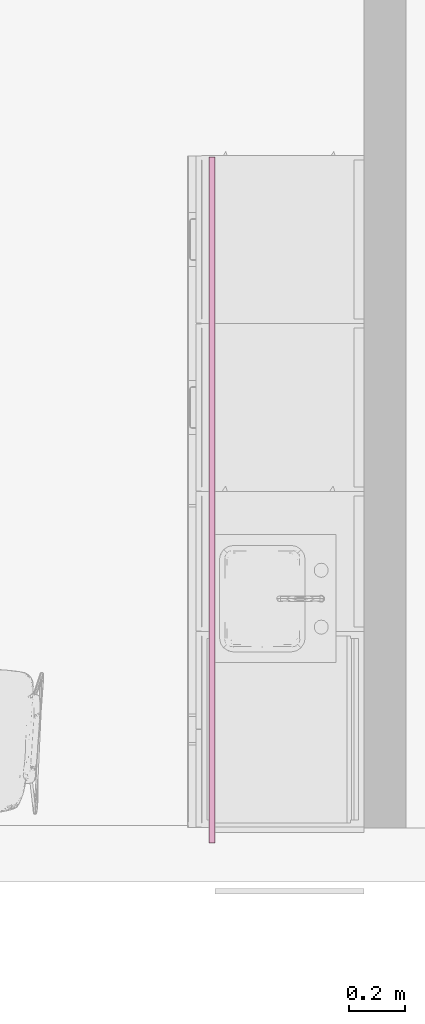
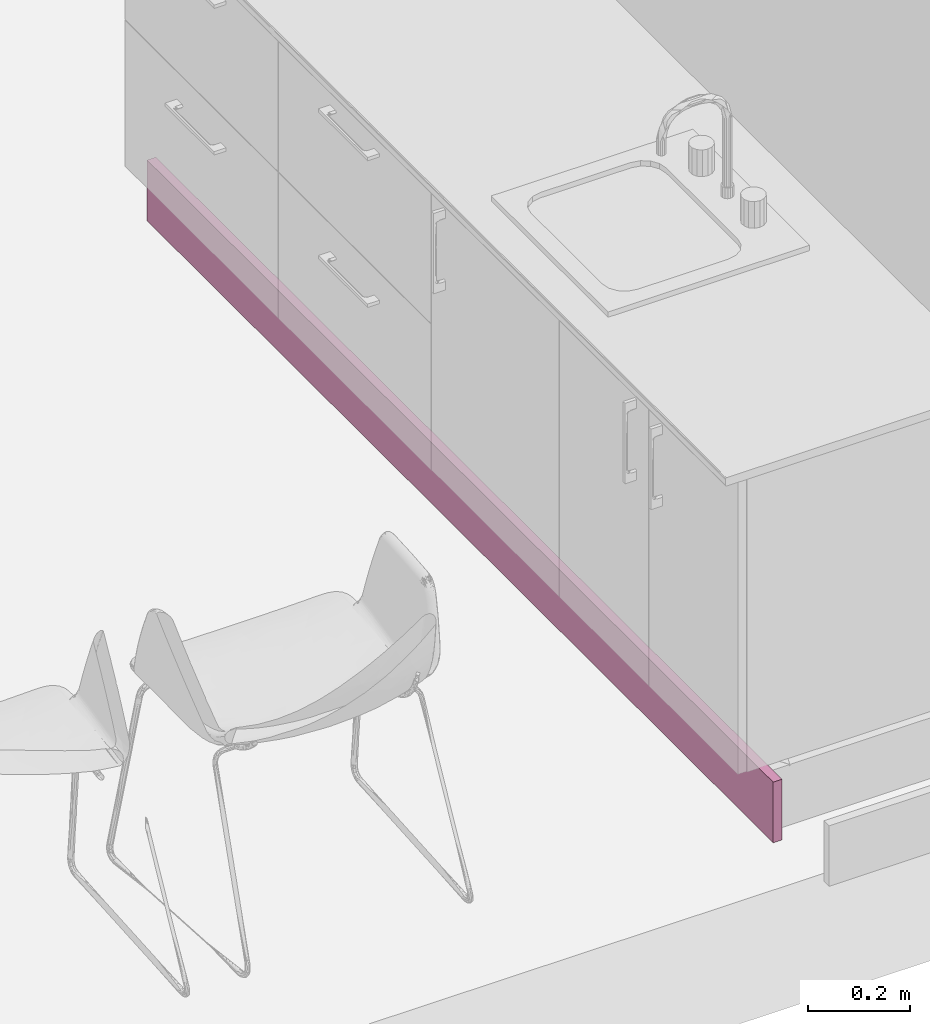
# One storey, part 12 of 19: 1 furnishing.
"""IFC2X3 building model written with IfcOpenShell, lengths in millimetres."""

from ifc_helpers import new_model, entity, si_unit, converted_unit, derived_unit, direction, frame, frame_2d, origin, place, context, subcontext, project, spatial, rectangle, extrude, source, transform, mapped, material, type_object, type_shapes, element, save


model = new_model("IFC2X3")

# Units and contexts
model_context = context("Model", 3, precision=0.01, world=origin(), true_north=direction((6.12303176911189e-17, 1.0)))
context_of_model = context(None, 3, precision=0.01, world=origin(), true_north=direction((6.12303176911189e-17, 1.0)))
body_context = subcontext(model_context, "Body", "Model", "MODEL_VIEW")
ifc_project = project(units=[si_unit("LENGTHUNIT", "METRE", prefix="MILLI"), si_unit("AREAUNIT", "SQUARE_METRE"), si_unit("VOLUMEUNIT", "CUBIC_METRE"), converted_unit("PLANEANGLEUNIT", "DEGREE", entity("IfcRatioMeasure", 0.0174532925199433), si_unit("PLANEANGLEUNIT", "RADIAN"), dimensions=[0, 0, 0, 0, 0, 0, 0]), si_unit("MASSUNIT", "GRAM", prefix="KILO"), derived_unit("MASSDENSITYUNIT", [(si_unit("MASSUNIT", "GRAM", prefix="KILO"), 1), (si_unit("LENGTHUNIT", "METRE"), -3)]), si_unit("TIMEUNIT", "SECOND"), si_unit("FREQUENCYUNIT", "HERTZ"), si_unit("THERMODYNAMICTEMPERATUREUNIT", "DEGREE_CELSIUS"), derived_unit("THERMALTRANSMITTANCEUNIT", [(si_unit("MASSUNIT", "GRAM", prefix="KILO"), 1), (si_unit("THERMODYNAMICTEMPERATUREUNIT", "KELVIN"), -1), (si_unit("TIMEUNIT", "SECOND"), -3)]), derived_unit("VOLUMETRICFLOWRATEUNIT", [(si_unit("LENGTHUNIT", "METRE"), 3), (si_unit("TIMEUNIT", "SECOND"), -1)]), si_unit("ELECTRICCURRENTUNIT", "AMPERE"), si_unit("ELECTRICVOLTAGEUNIT", "VOLT"), si_unit("POWERUNIT", "WATT"), si_unit("FORCEUNIT", "NEWTON", prefix="KILO"), si_unit("ILLUMINANCEUNIT", "LUX"), si_unit("LUMINOUSFLUXUNIT", "LUMEN"), si_unit("LUMINOUSINTENSITYUNIT", "CANDELA"), derived_unit("USERDEFINED", [(si_unit("MASSUNIT", "GRAM", prefix="KILO"), -1), (si_unit("LENGTHUNIT", "METRE"), -2), (si_unit("TIMEUNIT", "SECOND"), 3), (si_unit("LUMINOUSFLUXUNIT", "LUMEN"), 1)]), derived_unit("LINEARVELOCITYUNIT", [(si_unit("LENGTHUNIT", "METRE"), 1), (si_unit("TIMEUNIT", "SECOND"), -1)]), si_unit("PRESSUREUNIT", "PASCAL"), derived_unit("USERDEFINED", [(si_unit("LENGTHUNIT", "METRE"), -2), (si_unit("MASSUNIT", "GRAM", prefix="KILO"), 1), (si_unit("TIMEUNIT", "SECOND"), -2)])], contexts=[model_context, context_of_model])

# Site, building, storey, space
site_placement = place(None, frame((121442.264707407, 135347.995453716, -1800.0)))
site = spatial("IfcSite", under=ifc_project, at=site_placement, Name="Surface", CompositionType="ELEMENT")
building_placement = place(site_placement, origin())
building = spatial("IfcBuilding", under=site, at=building_placement, CompositionType="ELEMENT")
storey_placement = place(building_placement, frame((0.0, 0.0, 5125.0)))
storey = spatial("IfcBuildingStorey", under=building, at=storey_placement, Name="2 korrus", CompositionType="ELEMENT", Elevation=5125.00000000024)
space_placement = place(storey_placement, origin())
space = spatial("IfcSpace", under=storey, at=space_placement, Name="224", CompositionType="ELEMENT", InteriorOrExteriorSpace="INTERNAL")

# Furnishing
ifc_material = material(Name="Skirt")
furniture_type = type_object("IfcFurnitureType", Name="skirt_04", AssemblyPlace="NOTDEFINED", material=ifc_material)
shared_shape = source(origin(), body_context, "Body", "SweptSolid", [
    extrude(rectangle(XDim=2449.53407306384, YDim=20.0, at=frame_2d((0.0, -1.77635683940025e-15), x_axis=(1.0, 0.0))), frame((1938.11417540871, -10.0, 0.0), z_axis=(0.0, 0.0, 1.0), x_axis=(-1.0, 0.0, 0.0)), (0.0, 0.0, 1.0), 144.8),
])
type_shapes(furniture_type, [shared_shape])
furnishing_placement = place(space_placement, frame((-114501.710568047, -133917.995453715, 0.0), z_axis=(0.0, 0.0, 1.0), x_axis=(0.0, 1.0, 0.0)))
element("IfcFurnishingElement", 1, at=furnishing_placement, inside=space, type_object=furniture_type, material=ifc_material, Name="skirt_04:skirt_04", ObjectType="skirt_04", context=body_context, shape_type="MappedRepresentation", body=[
    mapped(shared_shape, transform((0.0, 0.0, 0.0), scale=1.0)),
])

save(model, "model.ifc")
